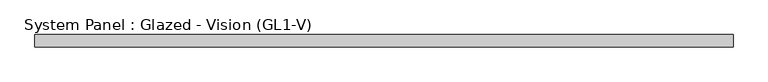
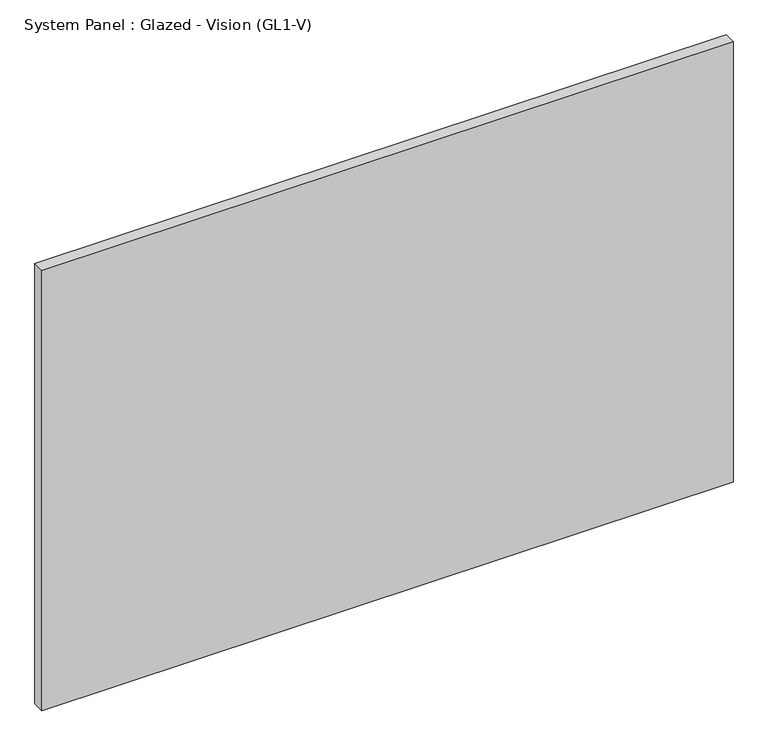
"""IFC4 building model written with IfcOpenShell, lengths in millimetres: plate geometry, System Panel : Glazed - Vision (GL1-V)."""

from ifc_helpers import new_model, si_unit, origin, origin_with_axes, place, context, project, spatial, polyline, outline, extrude, source, transform, mapped, element, save


def system_panel_glazed_vision_gl1_v_aca21677(model_context):
    return source(origin(), model_context, "Body", "SweptSolid", [
        extrude(outline(polyline([(730.25, -25.4), (-730.25, -25.4), (-730.25, 0.0), (730.25, 0.0), (730.25, -25.4)])), origin_with_axes(), (0.0, 0.0, 1.0), 984.25),
    ])


if __name__ == "__main__":
    model = new_model("IFC4")
    model_context = context("Model", 3, world=origin())
    ifc_project = project(units=[si_unit("LENGTHUNIT", "METRE", prefix="MILLI")], contexts=[model_context])
    site = spatial("IfcSite", under=ifc_project)
    building = spatial("IfcBuilding", under=site)
    placement = place(None, origin())
    system_panel_glazed_vision_gl1_v_shape = system_panel_glazed_vision_gl1_v_aca21677(model_context)
    element("IfcPlate", 1, ObjectType="System Panel : Glazed - Vision (GL1-V)", at=placement, inside=building, context=model_context, shape_type="MappedRepresentation", body=[
        mapped(system_panel_glazed_vision_gl1_v_shape, transform((0.0, 0.0, 0.0), x_axis=(1.0, 0.0, 0.0), y_axis=(0.0, 1.0, 0.0), z_axis=(0.0, 0.0, 1.0))),
    ])
    save(model, "model.ifc")
